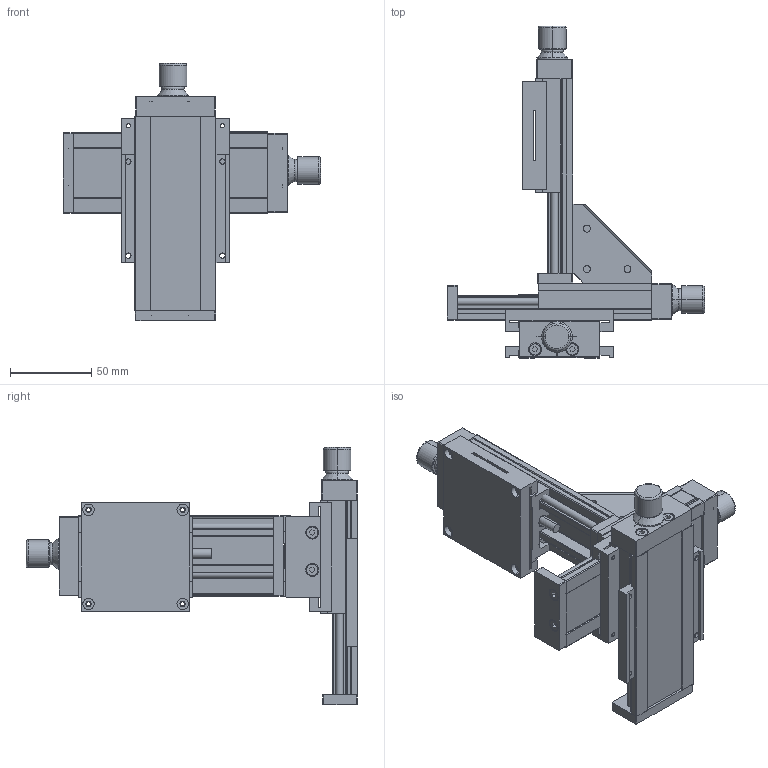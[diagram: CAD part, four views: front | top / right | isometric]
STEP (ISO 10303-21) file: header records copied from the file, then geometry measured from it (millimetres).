
FILE_DESCRIPTION (( 'STEP AP203' ), '1' );
FILE_NAME ('dL 50 XYZ-+-D009610_ .STEP', '2001-10-08T11:30:33', ( '' ), ( '' ), 'SwSTEP 2.0', 'SolidWorks 2001239', '' );
FILE_SCHEMA (( 'CONFIG_CONTROL_DESIGN' ));
Length unit declared in the file: millimetre
Products named in the file (8): dL 50 XYZ-+-D009610_ ; X-Z Verbindung dL50-+-D004969_ ; X-Y light-+-D006195_ ; Aussenschlitten 50-+-D009143_ ; dL 50 light-+-D006814_ ; Befestigung dL50-+-D006833_ ; Klemmprofil_3mm-+-D004966_ ; Montageplatte 50-+-D009460_ 
Assembly tree (12 placements, depth 3):
  dL 50 XYZ-+-D009610_ 
    Aussenschlitten 50-+-D009143_   x3
    dL 50 light-+-D006814_   x3
    X-Y light-+-D006195_ 
    Montageplatte 50-+-D009460_ 
    Befestigung dL50-+-D006833_ 
      Klemmprofil_3mm-+-D004966_   x2
    X-Z Verbindung dL50-+-D004969_ 
Bounding box: 158.5 x 204.5 x 158.5 mm (x, y, z)
Volume: 405721.5 mm3; surface area: 177210.4 mm2
Topology: 11 solids, 11 shells, 837 faces, 2197 edges, 1443 vertices
Faces by surface type: plane 539, cylinder 274, cone 12, torus 12
Entity records: 13082 total; most frequent: DIRECTION 2116, CARTESIAN_POINT 2099, ORIENTED_EDGE 2046, EDGE_CURVE 1023, LINE 736, VECTOR 736, AXIS2_PLACEMENT_3D 690, VERTEX_POINT 673
